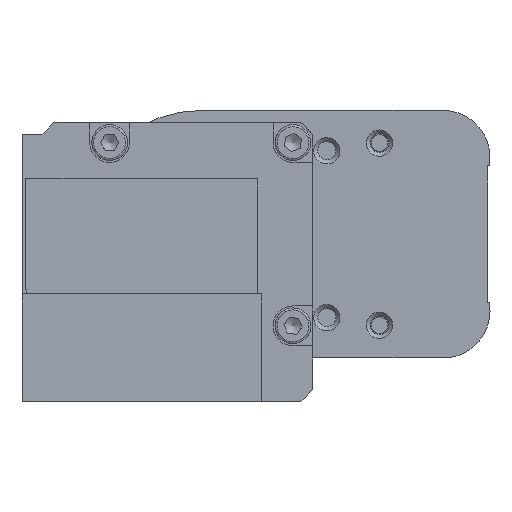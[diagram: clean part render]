
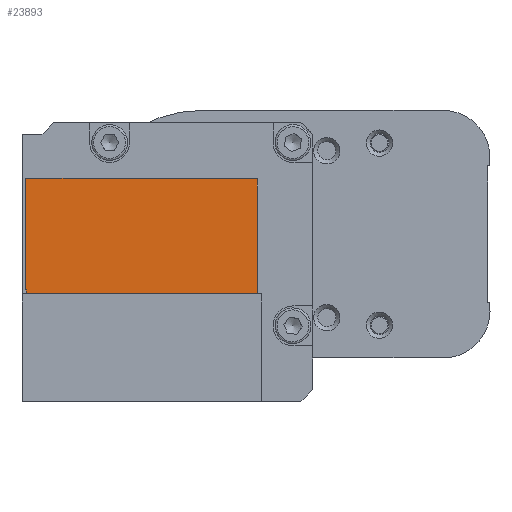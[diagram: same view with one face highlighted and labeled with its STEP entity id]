
A CAD part, left-side view. The second image highlights one B-rep face of the part: STEP entity #23893.
In plain terms, the highlighted planar face has unit normal (-1, 0, 0).
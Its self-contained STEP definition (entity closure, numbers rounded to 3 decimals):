
#1257=LINE($,#36922,#3419);
#1264=LINE($,#36939,#3426);
#1267=LINE($,#36954,#3429);
#1275=LINE($,#36982,#3437);
#1493=LINE($,#37685,#3655);
#1494=LINE($,#37687,#3656);
#1495=LINE($,#37689,#3657);
#1496=LINE($,#37690,#3658);
#3419=VECTOR($,#29600,13.);
#3426=VECTOR($,#29613,0.5);
#3429=VECTOR($,#29630,0.009);
#3437=VECTOR($,#29662,28.995);
#3655=VECTOR($,#30258,1.5);
#3656=VECTOR($,#30259,29.);
#3657=VECTOR($,#30260,14.);
#3658=VECTOR($,#30261,0.014);
#6608=PLANE($,#25808);
#8128=FACE_OUTER_BOUND($,#9700,.T.);
#9700=EDGE_LOOP($,(#19701,#19702,#19703,#19704,#19705,#19706,#19707,#19708));
#12006=VERTEX_POINT($,#36919);
#12007=VERTEX_POINT($,#36921);
#12010=VERTEX_POINT($,#36929);
#12014=VERTEX_POINT($,#36937);
#12019=VERTEX_POINT($,#36952);
#12233=VERTEX_POINT($,#37684);
#12234=VERTEX_POINT($,#37686);
#12235=VERTEX_POINT($,#37688);
#14537=EDGE_CURVE($,#12007,#12006,#1257,.T.);
#14545=EDGE_CURVE($,#12010,#12014,#1264,.T.);
#14551=EDGE_CURVE($,#12019,#12006,#1267,.T.);
#14564=EDGE_CURVE($,#12007,#12014,#1275,.T.);
#14874=EDGE_CURVE($,#12233,#12019,#1493,.T.);
#14875=EDGE_CURVE($,#12233,#12234,#1494,.T.);
#14876=EDGE_CURVE($,#12234,#12235,#1495,.T.);
#14877=EDGE_CURVE($,#12235,#12010,#1496,.T.);
#19701=ORIENTED_EDGE($,*,*,#14545,.T.);
#19702=ORIENTED_EDGE($,*,*,#14564,.F.);
#19703=ORIENTED_EDGE($,*,*,#14537,.T.);
#19704=ORIENTED_EDGE($,*,*,#14551,.F.);
#19705=ORIENTED_EDGE($,*,*,#14874,.F.);
#19706=ORIENTED_EDGE($,*,*,#14875,.T.);
#19707=ORIENTED_EDGE($,*,*,#14876,.T.);
#19708=ORIENTED_EDGE($,*,*,#14877,.T.);
#23893=ADVANCED_FACE($,(#8128),#6608,.T.);
#25808=AXIS2_PLACEMENT_3D($,#37683,#30256,#30257);
#29600=DIRECTION($,(0.,0.,1.));
#29613=DIRECTION($,(0.,0.,-1.));
#29630=DIRECTION($,(0.,-1.,0.));
#29662=DIRECTION($,(0.,1.,0.));
#30256=DIRECTION('center_axis',(-1.,0.,0.));
#30257=DIRECTION('ref_axis',(0.,0.,
-1.));
#30258=DIRECTION($,(0.,0.,-1.));
#30259=DIRECTION($,(0.,1.,0.));
#30260=DIRECTION($,(0.,0.,-1.));
#30261=DIRECTION($,(0.,-1.,0.));
#36919=CARTESIAN_POINT('',(16.,0.491,26.5));
#36921=CARTESIAN_POINT('',(16.,0.491,13.5));
#36922=CARTESIAN_POINT($,(16.,0.491,13.5));
#36929=CARTESIAN_POINT('',(16.,29.486,14.));
#36937=CARTESIAN_POINT('',(16.,29.486,13.5));
#36939=CARTESIAN_POINT($,(16.,29.486,20.));
#36952=CARTESIAN_POINT('',(16.,0.5,26.5));
#36954=CARTESIAN_POINT($,(16.,30.,26.5));
#36982=CARTESIAN_POINT($,(16.,30.,13.5));
#37683=CARTESIAN_POINT('Origin',(16.,29.5,28.));
#37684=CARTESIAN_POINT('',(16.,0.5,28.));
#37685=CARTESIAN_POINT($,(16.,0.5,28.));
#37686=CARTESIAN_POINT('',(16.,29.5,28.));
#37687=CARTESIAN_POINT($,(16.,0.5,28.));
#37688=CARTESIAN_POINT('',(16.,29.5,14.));
#37689=CARTESIAN_POINT($,(16.,29.5,28.));
#37690=CARTESIAN_POINT($,(16.,0.5,14.));
